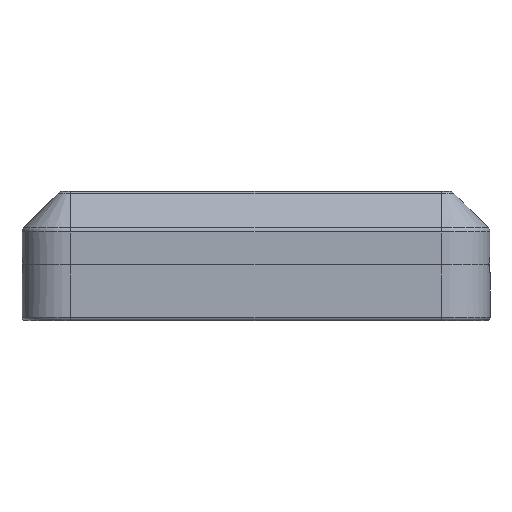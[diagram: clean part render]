
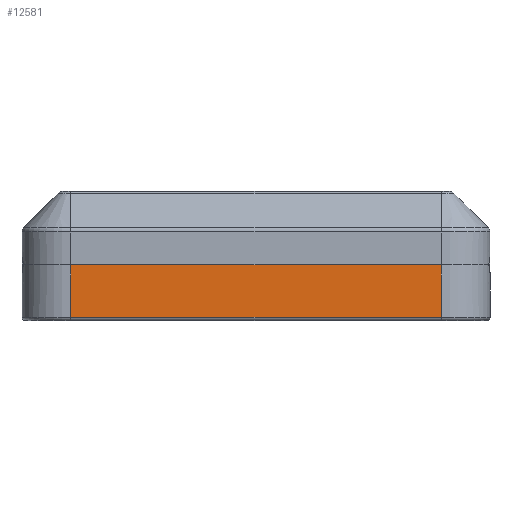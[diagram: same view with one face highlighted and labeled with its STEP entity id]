
A CAD part, front view. The second image highlights one B-rep face of the part: STEP entity #12581.
In plain terms, the highlighted planar face has unit normal (0, -1, 0).
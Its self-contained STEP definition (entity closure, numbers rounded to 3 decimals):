
#12581=ADVANCED_FACE('',(#14819),#14116,.T.);
#14116=PLANE('',#39290);
#14819=FACE_OUTER_BOUND('',#21379,.T.);
#17420=LINE('',#51557,#19398);
#17421=LINE('',#51560,#19399);
#17422=LINE('',#51562,#19400);
#17423=LINE('',#51564,#19401);
#19398=VECTOR('',#43060,1.);
#19399=VECTOR('',#43061,1.);
#19400=VECTOR('',#43062,1.);
#19401=VECTOR('',#43063,1.);
#21379=EDGE_LOOP('',(#24167,#24168,#24169,#24170));
#24167=ORIENTED_EDGE('',*,*,#34849,.T.);
#24168=ORIENTED_EDGE('',*,*,#34850,.T.);
#24169=ORIENTED_EDGE('',*,*,#34851,.T.);
#24170=ORIENTED_EDGE('',*,*,#34852,.F.);
#31992=VERTEX_POINT('',#51558);
#31993=VERTEX_POINT('',#51559);
#31994=VERTEX_POINT('',#51561);
#31995=VERTEX_POINT('',#51563);
#34849=EDGE_CURVE('',#31992,#31993,#17420,.T.);
#34850=EDGE_CURVE('',#31993,#31994,#17421,.T.);
#34851=EDGE_CURVE('',#31994,#31995,#17422,.T.);
#34852=EDGE_CURVE('',#31992,#31995,#17423,.T.);
#39290=AXIS2_PLACEMENT_3D('',#51565,#43064,#43065);
#43060=DIRECTION('',(0.,0.,-1.));
#43061=DIRECTION('',(1.,0.,0.));
#43062=DIRECTION('',(0.,0.,1.));
#43063=DIRECTION('',(1.,0.,0.));
#43064=DIRECTION('',(0.,-1.,0.));
#43065=DIRECTION('',(1.,0.,0.));
#51557=CARTESIAN_POINT('',(-51.999,-148.101,-15.6));
#51558=CARTESIAN_POINT('',(-51.999,-148.101,0.));
#51559=CARTESIAN_POINT('',(-51.999,-148.101,-14.7));
#51560=CARTESIAN_POINT('',(-64.999,-148.102,-14.7));
#51561=CARTESIAN_POINT('',(52.002,-148.099,-14.7));
#51562=CARTESIAN_POINT('',(52.002,-148.099,0.));
#51563=CARTESIAN_POINT('',(52.002,-148.099,0.));
#51564=CARTESIAN_POINT('',(-65.006,-148.102,0.));
#51565=CARTESIAN_POINT('',(-64.999,-148.102,0.));
